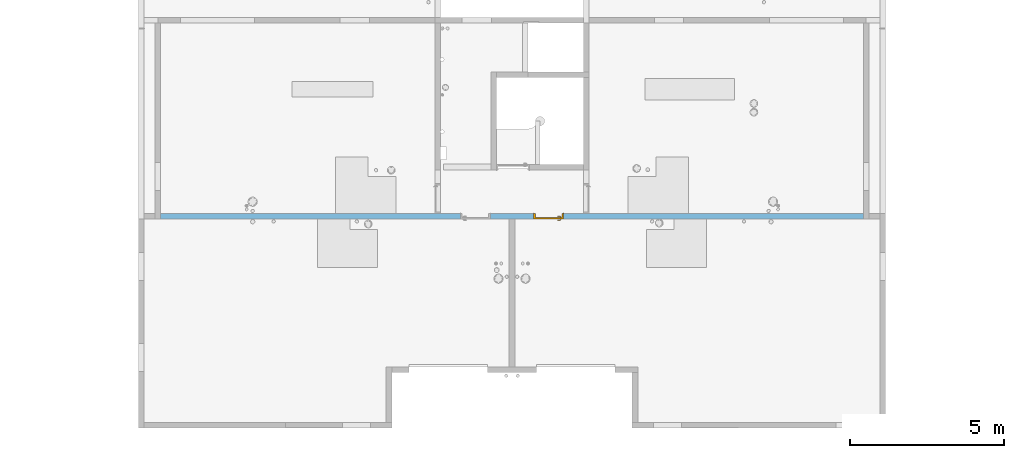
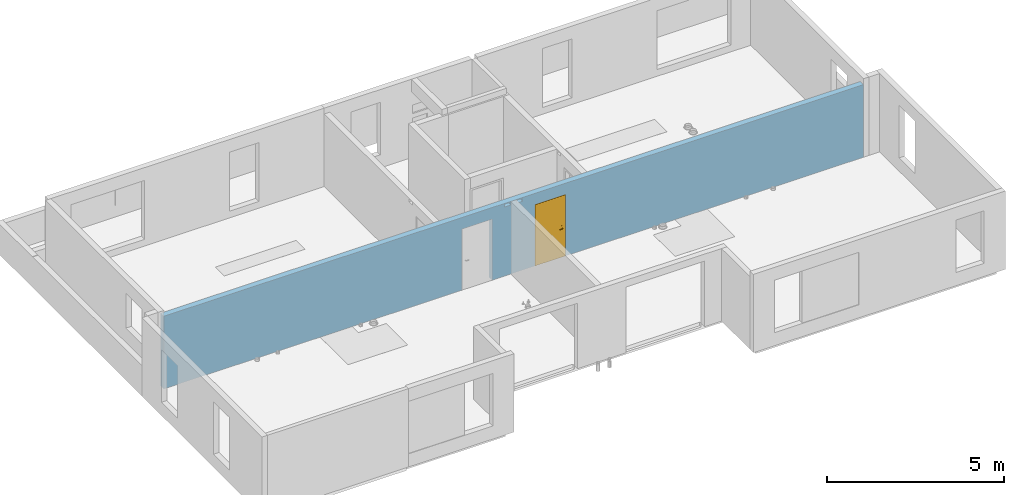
# One storey, part 9 of 28: 1 door, 6 openings, plus 1 element that does not belong to this part.
"""IFC2X3 building model written with IfcOpenShell, lengths in centimetres."""

from ifc_helpers import new_model, entity, si_unit, converted_unit, derived_unit, direction, frame, frame_2d, origin, place, context, subcontext, project, spatial, rectangle, extrude, faceted_brep, source, transform, mapped, material, material_list, layer, layer_set, layer_usage, type_object, type_shapes, element, fill, save


model = new_model("IFC2X3")

# Units and contexts
model_context = context("Model", 3, precision=0.001, world=origin(), true_north=direction((6.12303176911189e-17, 1.0)))
body_context = subcontext(model_context, "Body", "Model", "MODEL_VIEW")
ifc_project = project(units=[si_unit("LENGTHUNIT", "METRE", prefix="CENTI"), si_unit("AREAUNIT", "SQUARE_METRE"), si_unit("VOLUMEUNIT", "CUBIC_METRE"), converted_unit("PLANEANGLEUNIT", "DEGREE", entity("IfcRatioMeasure", 0.0174532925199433), si_unit("PLANEANGLEUNIT", "RADIAN"), dimensions=[0, 0, 0, 0, 0, 0, 0]), si_unit("MASSUNIT", "GRAM", prefix="KILO"), derived_unit("MASSDENSITYUNIT", [(si_unit("MASSUNIT", "GRAM", prefix="KILO"), 1), (si_unit("LENGTHUNIT", "METRE"), -3)]), si_unit("TIMEUNIT", "SECOND"), si_unit("FREQUENCYUNIT", "HERTZ"), si_unit("THERMODYNAMICTEMPERATUREUNIT", "DEGREE_CELSIUS"), derived_unit("THERMALTRANSMITTANCEUNIT", [(si_unit("MASSUNIT", "GRAM", prefix="KILO"), 1), (si_unit("THERMODYNAMICTEMPERATUREUNIT", "KELVIN"), -1), (si_unit("TIMEUNIT", "SECOND"), -3)]), derived_unit("VOLUMETRICFLOWRATEUNIT", [(si_unit("LENGTHUNIT", "METRE"), 3), (si_unit("TIMEUNIT", "SECOND"), -1)]), si_unit("ELECTRICCURRENTUNIT", "AMPERE"), si_unit("ELECTRICVOLTAGEUNIT", "VOLT"), si_unit("POWERUNIT", "WATT"), si_unit("FORCEUNIT", "NEWTON"), si_unit("ILLUMINANCEUNIT", "LUX"), si_unit("LUMINOUSFLUXUNIT", "LUMEN"), si_unit("LUMINOUSINTENSITYUNIT", "CANDELA"), derived_unit("USERDEFINED", [(si_unit("MASSUNIT", "GRAM", prefix="KILO"), -1), (si_unit("LENGTHUNIT", "METRE"), -2), (si_unit("TIMEUNIT", "SECOND"), 3), (si_unit("LUMINOUSFLUXUNIT", "LUMEN"), 1)]), derived_unit("LINEARVELOCITYUNIT", [(si_unit("LENGTHUNIT", "METRE"), 1), (si_unit("TIMEUNIT", "SECOND"), -1)]), si_unit("PRESSUREUNIT", "PASCAL"), derived_unit("USERDEFINED", [(si_unit("LENGTHUNIT", "METRE"), -2), (si_unit("MASSUNIT", "GRAM", prefix="KILO"), 1), (si_unit("TIMEUNIT", "SECOND"), -2)])], contexts=[model_context])

# Site, building, storey
site_placement = place(None, origin())
site = spatial("IfcSite", under=ifc_project, at=site_placement, Name="Default", CompositionType="ELEMENT")
building_placement = place(site_placement, origin())
building = spatial("IfcBuilding", under=site, at=building_placement, Name="CAGE 03", CompositionType="ELEMENT")
storey_placement = place(building_placement, frame((0.0, 0.0, 1420.0)))
storey = spatial("IfcBuildingStorey", under=building, at=storey_placement, Name="R+5", CompositionType="ELEMENT", Elevation=1420.0)

# Wall, openings, door
ifc_material_1 = material(Name="Béton, C25/30")
ifc_layer = layer(ifc_material_1, 18.0)
ifc_layer_set = layer_set([ifc_layer], Name="Mur de base:Voile BA 18")
ifc_layer_usage = layer_usage(ifc_layer_set, "AXIS2", "NEGATIVE", 9.0)
wall_type = type_object("IfcWallType", Name="Mur de base:Voile BA 18", PredefinedType="STANDARD", material=ifc_layer_set)
wall_placement = place(storey_placement, frame((5941.36582014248, 4483.6606660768, 0.0)))
wall = element("IfcWallStandardCase", 1, at=wall_placement, inside=storey, type_object=wall_type, material=ifc_layer_usage, Name="Mur de base:Voile BA 18", ObjectType="Mur de base:Voile BA 18", context=body_context, shape_type="SweptSolid", body=[
    extrude(rectangle(XDim=2279.99999999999, YDim=17.9999999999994, at=frame_2d((1140.0, -1.73194791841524e-13), x_axis=(-1.0, 0.0))), origin(), (0.0, 0.0, 1.0), 250.0),
])
opening_1_placement = place(wall_placement, origin())
element("IfcOpeningElement", 2, at=opening_1_placement, cuts=wall, Name="Mur de base:Voile BA 18", ObjectType="Opening", context=body_context, shape_type="SweptSolid", body=[
    extrude(rectangle(XDim=210.000000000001, YDim=18.0000000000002, at=frame_2d((4.33431068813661e-13, -2.1316282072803e-13), x_axis=(0.0, 1.0))), frame((1381.0, 9.0, 105.0), z_axis=(0.0, 1.0, 0.0), x_axis=(1.0, 0.0, 0.0)), (0.0, 0.0, 1.0), 96.9999999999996),
])
opening_2_placement = place(wall_placement, origin())
element("IfcOpeningElement", 3, at=opening_2_placement, cuts=wall, Name="Mur de base:Voile BA 18", ObjectType="Opening", context=body_context, shape_type="SweptSolid", body=[
    extrude(rectangle(XDim=210.000000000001, YDim=18.0000000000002, at=frame_2d((-4.33431068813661e-13, -2.1316282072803e-13), x_axis=(0.0, 1.0))), frame((899.0, 9.0, 105.0), z_axis=(0.0, 1.0, 0.0), x_axis=(1.0, 0.0, 0.0)), (0.0, 0.0, 1.0), 96.9999999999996),
])
opening_3_placement = place(wall_placement, origin())
element("IfcOpeningElement", 4, at=opening_3_placement, cuts=wall, Name="Mur de base:Voile BA 18", ObjectType="Opening", context=body_context, shape_type="SweptSolid", body=[
    extrude(rectangle(XDim=10.0000000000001, YDim=19.9999999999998, at=frame_2d((4.33431068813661e-13, -1.08357767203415e-13), x_axis=(0.0, 1.0))), frame((1121.0, -9.0, 242.500000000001), z_axis=(0.0, 1.0, 0.0), x_axis=(1.0, 0.0, 0.0)), (0.0, 0.0, 1.0), 17.9999999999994),
])
opening_4_placement = place(wall_placement, origin())
element("IfcOpeningElement", 5, at=opening_4_placement, cuts=wall, Name="Mur de base:Voile BA 18", ObjectType="Opening", context=body_context, shape_type="SweptSolid", body=[
    extrude(rectangle(XDim=10.0000000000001, YDim=19.9999999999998, at=frame_2d((4.33431068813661e-13, -1.08357767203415e-13), x_axis=(0.0, 1.0))), frame((1159.0, -9.0, 242.500000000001), z_axis=(0.0, 1.0, 0.0), x_axis=(1.0, 0.0, 0.0)), (0.0, 0.0, 1.0), 17.9999999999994),
])
opening_5_placement = place(wall_placement, frame((1069.5, 9.0, 0.0)))
element("IfcOpeningElement", 6, at=opening_5_placement, cuts=wall, Name="Int. Simple:HB93:1", ObjectType="Opening", context=body_context, shape_type="SweptSolid", body=[
    extrude(rectangle(XDim=210.000000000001, YDim=96.9999999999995, at=frame_2d((105.000000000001, 48.4999999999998), x_axis=(1.0, 0.0))), frame((0.0, 0.0, 0.0), z_axis=(0.0, -1.0, 0.0), x_axis=(0.0, 0.0, 1.0)), (0.0, 0.0, 1.0), 18.0),
])
opening_6_placement = place(wall_placement, frame((1307.5, 9.0, 0.0)))
opening_6 = element("IfcOpeningElement", 7, at=opening_6_placement, cuts=wall, Name="Int. Simple:HB93:1", ObjectType="Opening", context=body_context, shape_type="SweptSolid", body=[
    extrude(rectangle(XDim=210.000000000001, YDim=96.9999999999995, at=frame_2d((105.000000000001, 48.4999999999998), x_axis=(1.0, 0.0))), frame((0.0, 0.0, 0.0), z_axis=(0.0, -1.0, 0.0), x_axis=(0.0, 0.0, 1.0)), (0.0, 0.0, 1.0), 18.0),
])
ifc_material_2 = material(Name="Finition Peinture - Blanc satiné")
ifc_material_3 = material(Name="Bois - Panneau de porte")
ifc_material_4 = material(Name="Bois - Cadre de porte")
ifc_material_list_1 = material_list([ifc_material_2, ifc_material_3, ifc_material_4])
ifc_material_list_2 = material_list([ifc_material_2, ifc_material_3, ifc_material_4])
door_style = type_object("IfcDoorStyle", Name="HB93", ConstructionType="NOTDEFINED", OperationType="SINGLE_SWING_RIGHT", ParameterTakesPrecedence=False, Sizeable=False, material=ifc_material_list_2)
shared_shape = source(origin(), body_context, "Body", "Brep", [
    faceted_brep([(96.5000000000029, -0.500000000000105, 87.0), (96.5000000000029, -0.500000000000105, 108.0), (95.535276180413, -0.500000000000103, 108.399601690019), (94.5000000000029, -0.500000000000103, 108.535898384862), (93.4647238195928, -0.500000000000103, 108.399601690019), (92.5000000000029, -0.500000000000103, 108.0), (92.5000000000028, -0.500000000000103, 87.0), (93.4647238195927, -0.500000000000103, 86.6003983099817), (94.5000000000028, -0.500000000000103, 86.464101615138), (95.5352761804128, -0.500000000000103, 86.6003983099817), (96.5000000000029, 0.0, 108.0), (96.5000000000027, 0.0, 87.0), (95.5352761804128, 0.0, 86.6003983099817), (94.5000000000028, 0.0, 86.464101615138), (93.4647238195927, 0.0, 86.6003983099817), (92.5000000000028, 0.0, 87.0), (92.5000000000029, 0.0, 108.0), (93.4647238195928, 0.0, 108.399601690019), (94.5000000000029, 0.0, 108.535898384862), (95.535276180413, 0.0, 108.399601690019)], [[[0, 1, 2, 3, 4, 5, 6, 7, 8, 9]], [[10, 11, 12, 13, 14, 15, 16, 17, 18, 19]], [[9, 12, 11, 0]], [[8, 13, 12, 9]], [[7, 14, 13, 8]], [[7, 6, 15, 14]], [[15, 6, 5, 16]], [[4, 17, 16, 5]], [[3, 18, 17, 4]], [[2, 19, 18, 3]], [[2, 1, 10, 19]], [[11, 10, 1, 0]]]),
    faceted_brep([(96.5000000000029, 4.0, 87.0), (96.5000000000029, 4.0, 108.0), (95.535276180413, 4.0, 108.399601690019), (94.5000000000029, 4.0, 108.535898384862), (93.4647238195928, 4.0, 108.399601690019), (92.500000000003, 4.0, 108.0), (92.5000000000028, 4.0, 87.0), (93.4647238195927, 4.0, 86.6003983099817), (94.5000000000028, 4.0, 86.464101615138), (95.5352761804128, 4.0, 86.6003983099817), (94.5000000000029, 4.49999999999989, 108.535898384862), (95.535276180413, 4.49999999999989, 108.399601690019), (96.5000000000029, 4.49999999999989, 108.0), (96.5000000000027, 4.49999999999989, 87.0), (95.5352761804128, 4.49999999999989, 86.6003983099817), (94.5000000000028, 4.49999999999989, 86.464101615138), (93.4647238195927, 4.49999999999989, 86.6003983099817), (92.5000000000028, 4.4999999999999, 87.0), (92.5000000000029, 4.4999999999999, 108.0), (93.4647238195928, 4.49999999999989, 108.399601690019)], [[[0, 1, 2, 3, 4, 5, 6, 7, 8, 9]], [[10, 11, 12, 13, 14, 15, 16, 17, 18, 19]], [[4, 19, 18, 5]], [[3, 10, 19, 4]], [[2, 11, 10, 3]], [[2, 1, 12, 11]], [[13, 12, 1, 0]], [[9, 14, 13, 0]], [[8, 15, 14, 9]], [[7, 16, 15, 8]], [[7, 6, 17, 16]], [[17, 6, 5, 18]]]),
    faceted_brep([(94.2974701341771, -0.500000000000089, 100.778044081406), (94.7025298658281, -0.500000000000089, 100.778044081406), (95.100000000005, -0.500000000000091, 100.699999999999), (95.100000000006, -0.500000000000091, 99.2999999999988), (94.7025298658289, -0.500000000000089, 99.221955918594), (94.297470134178, -0.500000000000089, 99.2219559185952), (93.9000000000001, -0.500000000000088, 99.3000000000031), (93.9000000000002, -0.500000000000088, 100.7), (94.7025298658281, -3.10045754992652, 100.778044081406), (95.1000000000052, -3.26509507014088, 100.7), (94.2974701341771, -2.93267631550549, 100.778044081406), (92.9298602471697, -4.30028620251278, 100.778044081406), (93.0976414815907, -4.70534593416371, 100.778044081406), (93.9000000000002, -2.76803879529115, 100.7), (93.9000000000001, -2.76803879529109, 99.3000000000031), (94.297470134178, -2.93267631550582, 99.2219559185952), (94.7025298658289, -3.10045754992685, 99.221955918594), (93.0976414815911, -4.70534593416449, 99.221955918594), (92.9298602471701, -4.30028620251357, 99.2219559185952), (95.100000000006, -3.26509507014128, 99.2999999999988), (93.2622790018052, -5.1028160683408, 100.7), (92.7652227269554, -3.90281606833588, 100.7), (92.7652227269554, -3.90281606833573, 99.3000000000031), (93.2622790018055, -5.10281606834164, 99.2999999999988), (84.4981359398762, -5.10281606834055, 100.7), (84.4981359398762, -4.70534593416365, 100.778044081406), (84.4981359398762, -4.30028620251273, 100.778044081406), (84.4981359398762, -3.90281606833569, 100.699999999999), (84.4981359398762, -3.90281606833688, 99.3000000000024), (84.4981359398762, -4.30028620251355, 99.2219559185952), (84.4981359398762, -4.70534593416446, 99.221955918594), (84.4981359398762, -5.10281606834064, 99.2999999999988), (88.7139980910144, -4.5028160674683, 100.78786867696), (89.2692302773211, -5.1028160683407, 100.7), (88.6316793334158, -3.90281606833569, 100.7), (88.631679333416, -3.90281606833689, 99.3000000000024), (88.7139981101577, -4.50281607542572, 99.2121313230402), (89.2692310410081, -5.10281606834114, 99.2999999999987)], [[[0, 1, 2, 3, 4, 5, 6, 7]], [[2, 1, 8, 9]], [[1, 0, 10, 11, 12, 8]], [[0, 7, 13, 10]], [[14, 13, 7, 6]], [[5, 15, 14, 6]], [[5, 4, 16, 17, 18, 15]], [[3, 19, 16, 4]], [[9, 19, 3, 2]], [[9, 8, 12, 20]], [[10, 13, 21, 11]], [[22, 21, 13, 14]], [[14, 15, 18, 22]], [[16, 19, 23, 17]], [[20, 23, 19, 9]], [[24, 25, 26, 27, 28, 29, 30, 31]], [[32, 25, 33]], [[33, 25, 24]], [[33, 20, 12]], [[11, 34, 32]], [[34, 11, 21]], [[27, 26, 34]], [[32, 26, 25]], [[32, 34, 26]], [[32, 33, 12]], [[11, 32, 12]], [[21, 22, 35, 28, 27, 34]], [[36, 29, 35]], [[30, 36, 37]], [[18, 35, 22]], [[29, 28, 35]], [[30, 37, 31]], [[37, 17, 23]], [[36, 17, 37]], [[36, 18, 17]], [[36, 35, 18]], [[29, 36, 30]], [[23, 20, 33, 24, 31, 37]]]),
    faceted_brep([(94.2974701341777, 4.49999999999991, 99.2219559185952), (94.7025298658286, 4.49999999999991, 99.221955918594), (95.1000000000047, 4.49999999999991, 99.2999999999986), (95.1000000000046, 4.49999999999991, 100.7), (94.7025298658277, 4.49999999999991, 100.778044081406), (94.2974701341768, 4.49999999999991, 100.778044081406), (93.8999999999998, 4.49999999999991, 100.7), (93.900000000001, 4.49999999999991, 99.3000000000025), (93.8999999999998, 6.7485204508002, 100.7), (93.8999999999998, 6.74852045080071, 99.3000000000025), (94.2974701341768, 6.91315797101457, 100.778044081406), (94.7025298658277, 7.0809392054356, 100.778044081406), (93.0838906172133, 8.69957845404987, 100.778044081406), (92.9161093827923, 8.29451872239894, 100.778044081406), (95.1000000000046, 7.24557672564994, 100.7), (95.1000000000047, 7.24557672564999, 99.2999999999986), (94.7025298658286, 7.08093920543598, 99.221955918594), (94.2974701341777, 6.91315797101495, 99.2219559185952), (92.9161093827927, 8.29451872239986, 99.2219559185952), (93.0838906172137, 8.69957845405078, 99.221955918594), (92.751471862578, 7.89704858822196, 100.7), (92.7514718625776, 7.89704858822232, 99.3000000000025), (93.2485281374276, 9.09704858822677, 100.7), (93.2485281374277, 9.09704858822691, 99.2999999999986), (84.4954216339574, 8.29451872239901, 100.778044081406), (84.4954216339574, 8.69957845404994, 100.778044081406), (84.4954216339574, 9.09704858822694, 100.7), (84.4954216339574, 9.09704858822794, 99.2999999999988), (84.4954216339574, 8.6995784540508, 99.221955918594), (84.4954216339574, 8.29451872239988, 99.2219559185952), (84.4954216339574, 7.89704858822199, 99.3000000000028), (84.4954216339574, 7.89704858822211, 100.7), (88.6234467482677, 7.89704858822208, 100.7), (88.6234479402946, 7.89704858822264, 99.3000000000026), (88.7057655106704, 8.49704858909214, 100.78786867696), (89.255479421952, 9.09704858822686, 100.7), (89.2554795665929, 9.09704858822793, 99.2999999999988), (88.7057654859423, 8.49704858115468, 99.2121313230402)], [[[0, 1, 2, 3, 4, 5, 6, 7]], [[8, 9, 7, 6]], [[5, 10, 8, 6]], [[5, 4, 11, 12, 13, 10]], [[3, 14, 11, 4]], [[14, 3, 2, 15]], [[2, 1, 16, 15]], [[1, 0, 17, 18, 19, 16]], [[0, 7, 9, 17]], [[20, 21, 9, 8]], [[8, 10, 13, 20]], [[14, 22, 12, 11]], [[23, 22, 14, 15]], [[15, 16, 19, 23]], [[17, 9, 21, 18]], [[24, 25, 26, 27, 28, 29, 30, 31]], [[21, 20, 32, 31, 30, 33]], [[34, 24, 32]], [[25, 34, 35]], [[13, 32, 20]], [[24, 31, 32]], [[25, 35, 26]], [[35, 12, 22]], [[34, 12, 35]], [[34, 13, 12]], [[34, 32, 13]], [[24, 34, 25]], [[22, 23, 36, 27, 26, 35]], [[37, 28, 36]], [[36, 28, 27]], [[36, 23, 19]], [[18, 33, 37]], [[33, 18, 21]], [[30, 29, 33]], [[37, 29, 28]], [[37, 33, 29]], [[37, 36, 19]], [[18, 37, 19]]]),
    faceted_brep([(100.500000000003, 4.0, 206.5), (100.500000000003, 4.0, 0.0), (10.5000000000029, 4.0, 0.0), (10.5000000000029, 4.0, 206.5), (100.500000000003, 0.0, 206.5), (10.5000000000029, 0.0, 206.5), (10.5000000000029, 0.0, 0.0), (100.500000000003, 0.0, 0.0)], [[[0, 1, 2, 3]], [[4, 5, 6, 7]], [[3, 5, 4, 0]], [[2, 6, 5, 3]], [[1, 7, 6, 2]], [[0, 4, 7, 1]]]),
    faceted_brep([(104.0, 0.0, 0.0), (100.500000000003, 0.0, 0.0), (100.500000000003, 4.0, 0.0), (99.0, 4.0, 0.0), (99.0, 18.0, 0.0), (104.0, 18.0, 0.0), (104.0, 18.0, 210.0), (104.0, 0.0, 210.0), (99.0, 18.0, 205.0), (12.0, 18.0, 205.0), (12.0, 18.0, 0.0), (7.0, 18.0, 0.0), (7.0, 18.0, 210.0), (99.0, 4.0, 205.0), (100.500000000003, 4.0, 206.5), (10.5000000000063, 4.0, 206.5), (10.5000000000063, 4.0, 0.0), (12.0, 4.0, 0.0), (12.0, 4.0, 205.0), (100.500000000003, 0.0, 206.5), (7.0, 0.0, 210.0), (7.0, 0.0, 0.0), (10.5000000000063, 0.0, 0.0), (10.5000000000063, 0.0, 206.5)], [[[0, 1, 2, 3, 4, 5]], [[5, 6, 7, 0]], [[4, 8, 9, 10, 11, 12, 6, 5]], [[3, 13, 8, 4]], [[2, 14, 15, 16, 17, 18, 13, 3]], [[1, 19, 14, 2]], [[0, 7, 20, 21, 22, 23, 19, 1]], [[12, 11, 21, 20]], [[21, 11, 10, 17, 16, 22]], [[18, 17, 10, 9]], [[23, 22, 16, 15]], [[6, 12, 20, 7]], [[13, 18, 9, 8]], [[19, 23, 15, 14]]]),
    faceted_brep([(102.500000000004, 18.0, 0.0), (102.500000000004, 18.5000000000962, 0.0), (105.500000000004, 18.5000000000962, 0.0), (105.500000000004, 18.0, 0.0), (105.500000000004, 18.0, 211.500000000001), (5.50000000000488, 18.0, 211.500000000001), (5.50000000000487, 18.0, 0.0), (8.50000000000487, 18.0, 0.0), (8.50000000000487, 18.0, 208.500000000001), (102.500000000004, 18.0, 208.500000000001), (105.500000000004, 18.5000000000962, 211.500000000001), (102.500000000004, 18.5000000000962, 208.500000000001), (8.50000000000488, 18.5000000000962, 208.500000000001), (8.50000000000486, 18.5000000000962, 0.0), (5.50000000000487, 18.5000000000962, 0.0), (5.50000000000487, 18.5000000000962, 211.500000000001)], [[[0, 1, 2, 3]], [[3, 4, 5, 6, 7, 8, 9, 0]], [[2, 10, 4, 3]], [[1, 11, 12, 13, 14, 15, 10, 2]], [[0, 9, 11, 1]], [[7, 6, 14, 13]], [[8, 7, 13, 12]], [[15, 14, 6, 5]], [[10, 15, 5, 4]], [[9, 8, 12, 11]]]),
    faceted_brep([(105.500000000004, -0.5, 0.0), (105.500000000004, -0.5, 211.500000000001), (5.50000000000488, -0.5, 211.500000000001), (5.50000000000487, -0.5, 0.0), (8.50000000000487, -0.5, 0.0), (8.50000000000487, -0.5, 208.500000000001), (102.500000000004, -0.5, 208.500000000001), (102.500000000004, -0.5, 0.0), (105.500000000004, 0.0, 0.0), (105.500000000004, 0.0, 211.500000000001), (102.500000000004, 0.0, 0.0), (102.500000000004, 0.0, 208.500000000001), (8.50000000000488, 0.0, 208.500000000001), (8.50000000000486, 0.0, 0.0), (5.50000000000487, 0.0, 0.0), (5.50000000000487, 0.0, 211.500000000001)], [[[0, 1, 2, 3, 4, 5, 6, 7]], [[8, 9, 1, 0]], [[10, 11, 12, 13, 14, 15, 9, 8]], [[7, 6, 11, 10]], [[5, 4, 13, 12]], [[15, 14, 3, 2]], [[9, 15, 2, 1]], [[6, 5, 12, 11]], [[4, 3, 14, 13]], [[7, 10, 8, 0]]]),
])
type_shapes(door_style, [shared_shape])
door_placement = place(opening_6_placement, frame((-104.0, -18.0, 0.0)))
door = element("IfcDoor", 8, at=door_placement, inside=storey, type_object=door_style, material=ifc_material_list_1, Name="Int. Simple:HB93", ObjectType="HB93", OverallHeight=210.000000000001, OverallWidth=96.9999999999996, context=body_context, shape_type="MappedRepresentation", body=[
    mapped(shared_shape, transform((0.0, 0.0, 0.0), scale=1.0)),
])
fill(opening_6, door)

save(model, "model.ifc")
